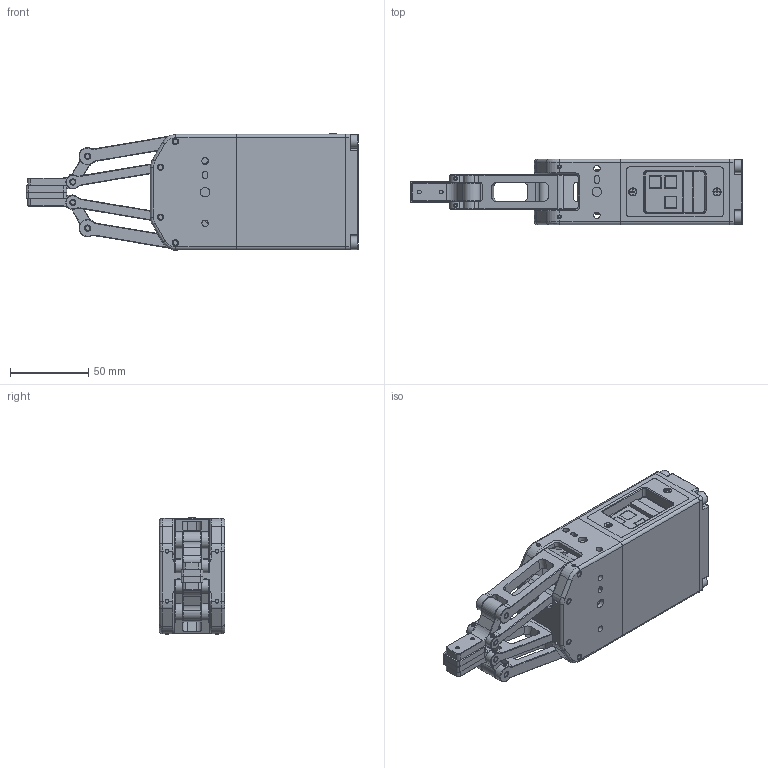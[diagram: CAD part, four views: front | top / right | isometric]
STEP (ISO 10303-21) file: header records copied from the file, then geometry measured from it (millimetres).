
FILE_DESCRIPTION (( 'STEP AP203' ), '1' );
FILE_NAME ('CHY80-¶Â¦â.STEP', '2020-02-05T00:16:15', ( '' ), ( '' ), 'SwSTEP 2.0', 'SolidWorks 2019', '' );
FILE_SCHEMA (( 'CONFIG_CONTROL_DESIGN' ));
Length unit declared in the file: millimetre
Products named in the file (2): CHY80-黑色
Bounding box: 212.71 x 42 x 74.55 mm (x, y, z)
Surface area: 66834.3 mm2 (no closed solid volume)
Topology: 0 solids, 74 shells, 802 faces, 2450 edges, 1662 vertices
Faces by surface type: plane 404, cylinder 219, cone 158, bspline 20, torus 1
Full cylindrical faces by diameter (mm): 2.013 x4, 2.459 x10, 2.5 x2, 4 x16, 4.134 x12, 4.7 x2, 6 x5, 8.5 x4
Entity records: 28467 total; most frequent: CARTESIAN_POINT 7210, DIRECTION 4422, ORIENTED_EDGE 3850, EDGE_CURVE 2309, VERTEX_POINT 1612, AXIS2_PLACEMENT_3D 1524, LINE 1374, VECTOR 1374
